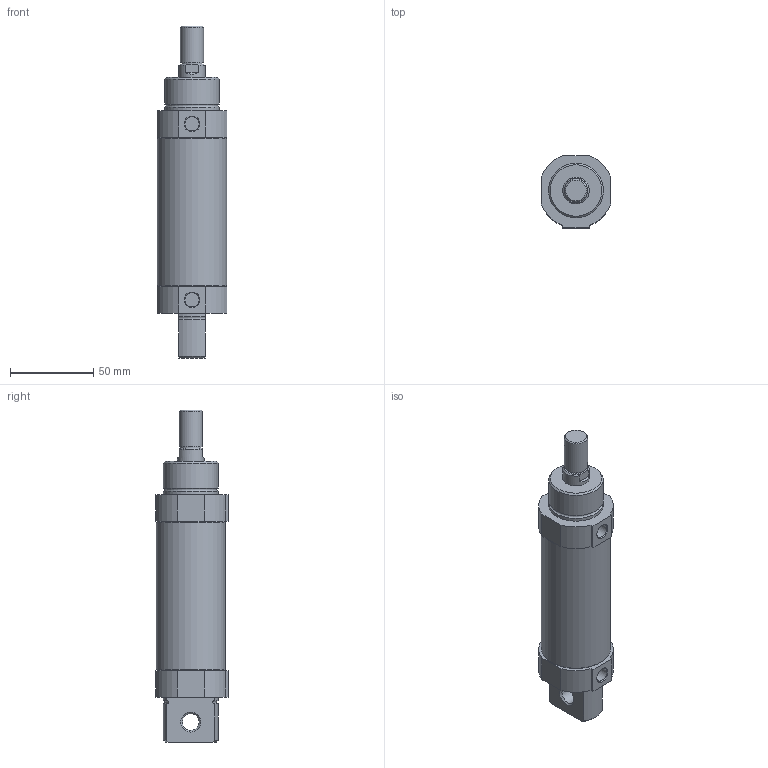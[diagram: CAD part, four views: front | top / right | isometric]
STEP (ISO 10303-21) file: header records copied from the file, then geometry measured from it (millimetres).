
FILE_DESCRIPTION((''),'2;1');
FILE_NAME('I:\3D電子目錄\氣缸\SDA\SDA40\SDA40\SDA40x50.stp','2007-08-06T10:36:52',('Administrator'),(''),'Autodesk Inventor 2008','Autodesk Inventor 2008','');
FILE_SCHEMA(('AUTOMOTIVE_DESIGN { 1 0 10303 214 1 1 1 1 }'));
Length unit declared in the file: millimetre
Products named in the file (1): SDA40X50
Bounding box: 42 x 43.5 x 200 mm (x, y, z)
Volume: 206215 mm3; surface area: 26874.4 mm2
Topology: 1 solids, 1 shells, 65 faces, 152 edges, 98 vertices
Faces by surface type: plane 27, cylinder 21, cone 12, torus 3, bspline 2
Full cylindrical faces by diameter (mm): 8.5 x2, 10 x1, 12.6 x1, 14 x1, 16 x1, 33 x2, 41.8 x1
Entity records: 1946 total; most frequent: CARTESIAN_POINT 486, DIRECTION 306, ORIENTED_EDGE 266, EDGE_CURVE 133, AXIS2_PLACEMENT_3D 121, VERTEX_POINT 97, EDGE_LOOP 94, FACE_OUTER_BOUND 65
